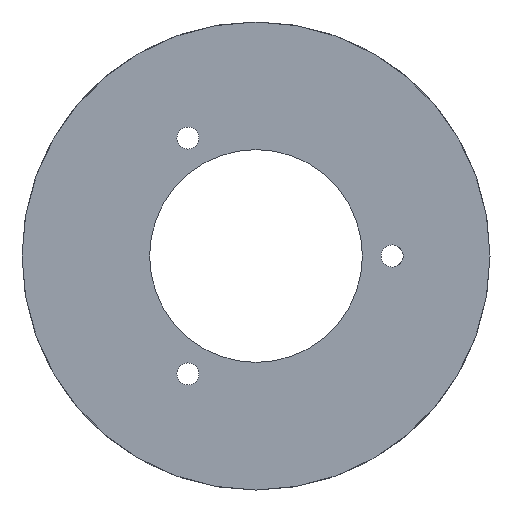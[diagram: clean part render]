
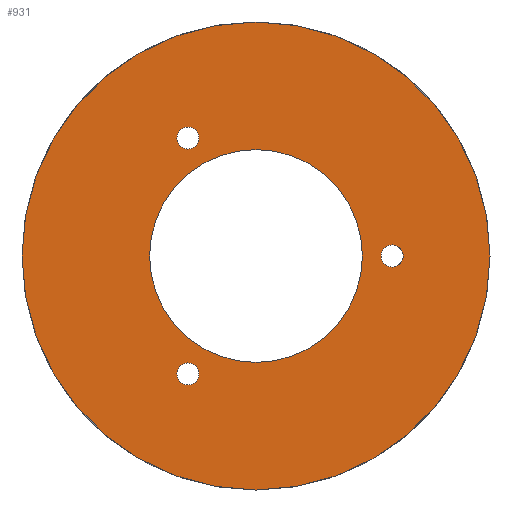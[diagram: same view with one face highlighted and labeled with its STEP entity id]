
A CAD part, front view. The second image highlights one B-rep face of the part: STEP entity #931.
In plain terms, the highlighted planar face has unit normal (0, -1, 0).
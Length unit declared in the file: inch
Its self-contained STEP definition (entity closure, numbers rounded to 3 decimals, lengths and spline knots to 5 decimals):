
#7 = AXIS2_PLACEMENT_3D ( 'NONE', #393, #1284, #701 ) ;
#26 = ORIENTED_EDGE ( 'NONE', *, *, #1282, .T. ) ;
#27 = FACE_BOUND ( 'NONE', #1141, .T. ) ;
#53 = VERTEX_POINT ( 'NONE', #346 ) ;
#75 = CARTESIAN_POINT ( 'NONE',  ( -0.32, -0.296, 0.60626 ) ) ;
#76 = CIRCLE ( 'NONE', #1108, 0.5 ) ;
#78 = VERTEX_POINT ( 'NONE', #1379 ) ;
#83 = EDGE_CURVE ( 'NONE', #233, #78, #1187, .T. ) ;
#85 = VERTEX_POINT ( 'NONE', #703 ) ;
#93 = ORIENTED_EDGE ( 'NONE', *, *, #1024, .T. ) ;
#97 = CARTESIAN_POINT ( 'NONE',  ( 0., -0.296, 0. ) ) ;
#101 = ORIENTED_EDGE ( 'NONE', *, *, #1355, .T. ) ;
#117 = AXIS2_PLACEMENT_3D ( 'NONE', #784, #207, #1485 ) ;
#135 = CARTESIAN_POINT ( 'NONE',  ( -0.32, -0.296, 0.50226 ) ) ;
#149 = CARTESIAN_POINT ( 'NONE',  ( -0.32, -0.296, -0.55426 ) ) ;
#196 = CIRCLE ( 'NONE', #7, 0.052 ) ;
#207 = DIRECTION ( 'NONE',  ( 0., 1., 0. ) ) ;
#216 = VERTEX_POINT ( 'NONE', #598 ) ;
#218 = ORIENTED_EDGE ( 'NONE', *, *, #461, .T. ) ;
#233 = VERTEX_POINT ( 'NONE', #498 ) ;
#237 = CARTESIAN_POINT ( 'NONE',  ( -0.32, -0.296, -0.55426 ) ) ;
#242 = CARTESIAN_POINT ( 'NONE',  ( 0.64, -0.296, -0.052 ) ) ;
#248 = EDGE_CURVE ( 'NONE', #85, #1279, #76, .T. ) ;
#260 = AXIS2_PLACEMENT_3D ( 'NONE', #903, #663, #1116 ) ;
#265 = CARTESIAN_POINT ( 'NONE',  ( 0., -0.296, 0. ) ) ;
#269 = PLANE ( 'NONE',  #426 ) ;
#299 = FACE_BOUND ( 'NONE', #531, .T. ) ;
#306 = CARTESIAN_POINT ( 'NONE',  ( 0.64, -0.296, 0. ) ) ;
#311 = EDGE_CURVE ( 'NONE', #216, #53, #1496, .T. ) ;
#346 = CARTESIAN_POINT ( 'NONE',  ( 1.1, -0.296, 0. ) ) ;
#393 = CARTESIAN_POINT ( 'NONE',  ( -0.32, -0.296, 0.55426 ) ) ;
#409 = FACE_BOUND ( 'NONE', #692, .T. ) ;
#426 = AXIS2_PLACEMENT_3D ( 'NONE', #1421, #622, #494 ) ;
#440 = DIRECTION ( 'NONE',  ( 0., 1., 0. ) ) ;
#447 = DIRECTION ( 'NONE',  ( 0., 1., 0. ) ) ;
#461 = EDGE_CURVE ( 'NONE', #78, #233, #612, .T. ) ;
#474 = CARTESIAN_POINT ( 'NONE',  ( 0.64, -0.296, 0.052 ) ) ;
#494 = DIRECTION ( 'NONE',  ( -1., 0., 0. ) ) ;
#498 = CARTESIAN_POINT ( 'NONE',  ( -0.32, -0.296, -0.60626 ) ) ;
#501 = CARTESIAN_POINT ( 'NONE',  ( 0., -0.296, 0.5 ) ) ;
#529 = VERTEX_POINT ( 'NONE', #474 ) ;
#531 = EDGE_LOOP ( 'NONE', ( #26, #601 ) ) ;
#552 = VERTEX_POINT ( 'NONE', #135 ) ;
#598 = CARTESIAN_POINT ( 'NONE',  ( -1.1, -0.296, 0. ) ) ;
#601 = ORIENTED_EDGE ( 'NONE', *, *, #248, .T. ) ;
#607 = CIRCLE ( 'NONE', #117, 0.052 ) ;
#612 = CIRCLE ( 'NONE', #1470, 0.052 ) ;
#622 = DIRECTION ( 'NONE',  ( 0., 1., 0. ) ) ;
#663 = DIRECTION ( 'NONE',  ( 0., 1., 0. ) ) ;
#676 = DIRECTION ( 'NONE',  ( 0., 0., 1. ) ) ;
#681 = CIRCLE ( 'NONE', #823, 1.1 ) ;
#692 = EDGE_LOOP ( 'NONE', ( #218, #902 ) ) ;
#698 = EDGE_CURVE ( 'NONE', #53, #216, #681, .T. ) ;
#701 = DIRECTION ( 'NONE',  ( -1., 0., 0. ) ) ;
#703 = CARTESIAN_POINT ( 'NONE',  ( 0., -0.296, -0.5 ) ) ;
#707 = ORIENTED_EDGE ( 'NONE', *, *, #1054, .T. ) ;
#711 = DIRECTION ( 'NONE',  ( -1., 0., 0. ) ) ;
#727 = AXIS2_PLACEMENT_3D ( 'NONE', #237, #1521, #711 ) ;
#766 = AXIS2_PLACEMENT_3D ( 'NONE', #265, #845, #978 ) ;
#777 = VERTEX_POINT ( 'NONE', #242 ) ;
#784 = CARTESIAN_POINT ( 'NONE',  ( 0.64, -0.296, 0. ) ) ;
#810 = AXIS2_PLACEMENT_3D ( 'NONE', #884, #440, #1247 ) ;
#823 = AXIS2_PLACEMENT_3D ( 'NONE', #97, #1105, #912 ) ;
#845 = DIRECTION ( 'NONE',  ( 0., 1., 0. ) ) ;
#884 = CARTESIAN_POINT ( 'NONE',  ( 0., -0.296, 0. ) ) ;
#902 = ORIENTED_EDGE ( 'NONE', *, *, #83, .T. ) ;
#903 = CARTESIAN_POINT ( 'NONE',  ( -0.32, -0.296, 0.55426 ) ) ;
#912 = DIRECTION ( 'NONE',  ( -1., 0., 0. ) ) ;
#931 = ADVANCED_FACE ( 'NONE', ( #1297, #299, #27, #409, #1198 ), #269, .F. ) ;
#978 = DIRECTION ( 'NONE',  ( 0., 0., 1. ) ) ;
#1024 = EDGE_CURVE ( 'NONE', #529, #777, #1319, .T. ) ;
#1036 = ORIENTED_EDGE ( 'NONE', *, *, #1499, .T. ) ;
#1054 = EDGE_CURVE ( 'NONE', #1351, #552, #1250, .T. ) ;
#1105 = DIRECTION ( 'NONE',  ( 0., 1., 0. ) ) ;
#1108 = AXIS2_PLACEMENT_3D ( 'NONE', #1490, #447, #676 ) ;
#1116 = DIRECTION ( 'NONE',  ( -1., 0., 0. ) ) ;
#1141 = EDGE_LOOP ( 'NONE', ( #93, #101 ) ) ;
#1163 = EDGE_LOOP ( 'NONE', ( #707, #1036 ) ) ;
#1187 = CIRCLE ( 'NONE', #727, 0.052 ) ;
#1198 = FACE_BOUND ( 'NONE', #1163, .T. ) ;
#1217 = DIRECTION ( 'NONE',  ( 0., 1., 0. ) ) ;
#1247 = DIRECTION ( 'NONE',  ( -1., 0., 0. ) ) ;
#1250 = CIRCLE ( 'NONE', #260, 0.052 ) ;
#1266 = CIRCLE ( 'NONE', #766, 0.5 ) ;
#1279 = VERTEX_POINT ( 'NONE', #501 ) ;
#1282 = EDGE_CURVE ( 'NONE', #1279, #85, #1266, .T. ) ;
#1284 = DIRECTION ( 'NONE',  ( 0., 1., 0. ) ) ;
#1297 = FACE_OUTER_BOUND ( 'NONE', #1477, .T. ) ;
#1319 = CIRCLE ( 'NONE', #1519, 0.052 ) ;
#1341 = DIRECTION ( 'NONE',  ( -1., 0., 0. ) ) ;
#1351 = VERTEX_POINT ( 'NONE', #75 ) ;
#1355 = EDGE_CURVE ( 'NONE', #777, #529, #607, .T. ) ;
#1362 = DIRECTION ( 'NONE',  ( 0., 1., 0. ) ) ;
#1379 = CARTESIAN_POINT ( 'NONE',  ( -0.32, -0.296, -0.50226 ) ) ;
#1421 = CARTESIAN_POINT ( 'NONE',  ( 1.18, -0.296, 1.18 ) ) ;
#1429 = DIRECTION ( 'NONE',  ( -1., 0., 0. ) ) ;
#1437 = ORIENTED_EDGE ( 'NONE', *, *, #311, .F. ) ;
#1468 = ORIENTED_EDGE ( 'NONE', *, *, #698, .F. ) ;
#1470 = AXIS2_PLACEMENT_3D ( 'NONE', #149, #1217, #1429 ) ;
#1477 = EDGE_LOOP ( 'NONE', ( #1437, #1468 ) ) ;
#1485 = DIRECTION ( 'NONE',  ( -1., 0., 0. ) ) ;
#1490 = CARTESIAN_POINT ( 'NONE',  ( 0., -0.296, 0. ) ) ;
#1496 = CIRCLE ( 'NONE', #810, 1.1 ) ;
#1499 = EDGE_CURVE ( 'NONE', #552, #1351, #196, .T. ) ;
#1519 = AXIS2_PLACEMENT_3D ( 'NONE', #306, #1362, #1341 ) ;
#1521 = DIRECTION ( 'NONE',  ( 0., 1., 0. ) ) ;
